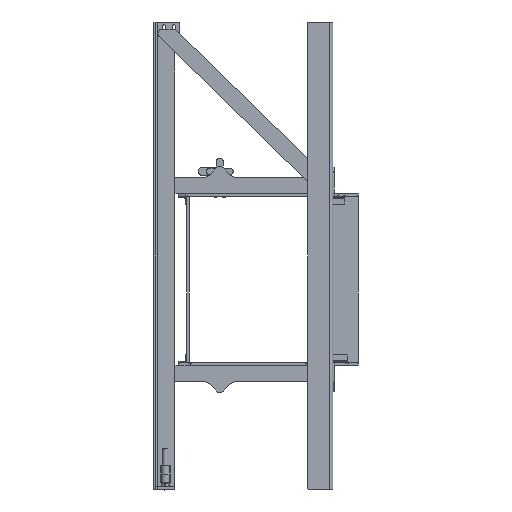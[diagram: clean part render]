
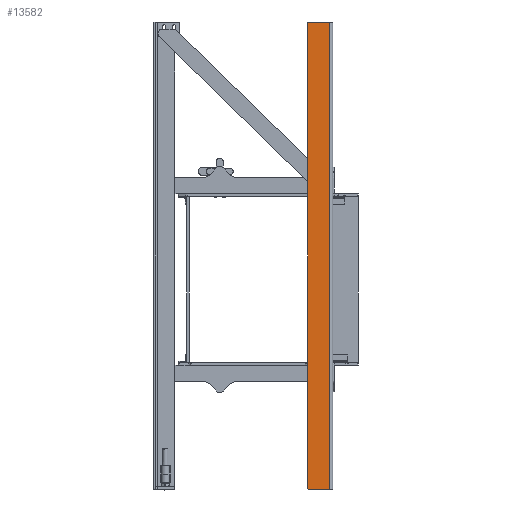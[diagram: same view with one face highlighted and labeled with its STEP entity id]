
A CAD part, left-side view. The second image highlights one B-rep face of the part: STEP entity #13582.
In plain terms, the highlighted planar face has unit normal (-1, 0, 0).
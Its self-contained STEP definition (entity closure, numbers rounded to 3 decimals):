
#1074=FACE_OUTER_BOUND('',#1832,.T.);
#1832=EDGE_LOOP('',(#11108,#11109,#11110,#11111,#11112,#11113));
#2955=LINE('',#22202,#4135);
#2961=LINE('',#22219,#4141);
#2965=LINE('',#22228,#4145);
#2966=LINE('',#22230,#4146);
#4135=VECTOR('',#18115,10.);
#4141=VECTOR('',#18137,10.);
#4145=VECTOR('',#18151,10.);
#4146=VECTOR('',#18154,10.);
#4873=CIRCLE('',#14829,2.);
#4875=CIRCLE('',#14834,2.);
#5969=VERTEX_POINT('',#22185);
#5970=VERTEX_POINT('',#22187);
#5975=VERTEX_POINT('',#22201);
#5976=VERTEX_POINT('',#22205);
#5977=VERTEX_POINT('',#22216);
#5978=VERTEX_POINT('',#22218);
#7726=EDGE_CURVE('',#5969,#5970,#4873,.T.);
#7733=EDGE_CURVE('',#5970,#5975,#2955,.T.);
#7735=EDGE_CURVE('',#5975,#5976,#4875,.T.);
#7741=EDGE_CURVE('',#5977,#5978,#2961,.T.);
#7747=EDGE_CURVE('',#5969,#5978,#2965,.T.);
#7748=EDGE_CURVE('',#5976,#5977,#2966,.T.);
#11108=ORIENTED_EDGE('',*,*,#7726,.F.);
#11109=ORIENTED_EDGE('',*,*,#7747,.T.);
#11110=ORIENTED_EDGE('',*,*,#7741,.F.);
#11111=ORIENTED_EDGE('',*,*,#7748,.F.);
#11112=ORIENTED_EDGE('',*,*,#7735,.F.);
#11113=ORIENTED_EDGE('',*,*,#7733,.F.);
#12441=PLANE('',#14850);
#13582=ADVANCED_FACE('',(#1074),#12441,.F.);
#14829=AXIS2_PLACEMENT_3D('',#22188,#18102,#18103);
#14834=AXIS2_PLACEMENT_3D('',#22206,#18119,#18120);
#14850=AXIS2_PLACEMENT_3D('',#22234,#18161,#18162);
#18102=DIRECTION('center_axis',(1.,0.,0.));
#18103=DIRECTION('ref_axis',(0.,0.707,-0.707));
#18115=DIRECTION('',(0.,0.,1.));
#18119=DIRECTION('center_axis',(1.,0.,0.));
#18120=DIRECTION('ref_axis',(0.,0.707,0.707));
#18137=DIRECTION('',(0.,0.,-1.));
#18151=DIRECTION('',(0.,-1.,0.));
#18154=DIRECTION('',(0.,-1.,0.));
#18161=DIRECTION('center_axis',(1.,0.,0.));
#18162=DIRECTION('ref_axis',(0.,0.,
-1.));
#22185=CARTESIAN_POINT('',(-90.4,150.,-879.));
#22187=CARTESIAN_POINT('',(-90.4,152.,-877.));
#22188=CARTESIAN_POINT('Origin',(-90.4,150.,-877.));
#22201=CARTESIAN_POINT('',(-90.4,152.,522.));
#22202=CARTESIAN_POINT('',(-90.4,152.,-879.));
#22205=CARTESIAN_POINT('',(-90.4,150.,524.));
#22206=CARTESIAN_POINT('Origin',(-90.4,150.,522.));
#22216=CARTESIAN_POINT('',(-90.4,86.25,524.));
#22218=CARTESIAN_POINT('',(-90.4,86.25,-879.));
#22219=CARTESIAN_POINT('',(-90.4,86.25,-177.5));
#22228=CARTESIAN_POINT('',(-90.4,152.,-879.));
#22230=CARTESIAN_POINT('',(-90.4,152.,524.));
#22234=CARTESIAN_POINT('Origin',(-90.4,87.709,-177.5));
